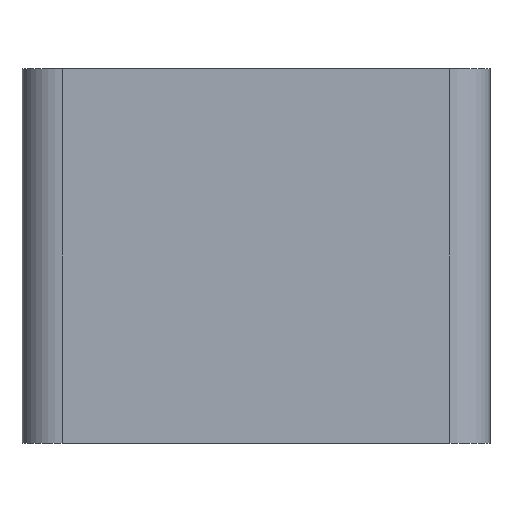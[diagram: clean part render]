
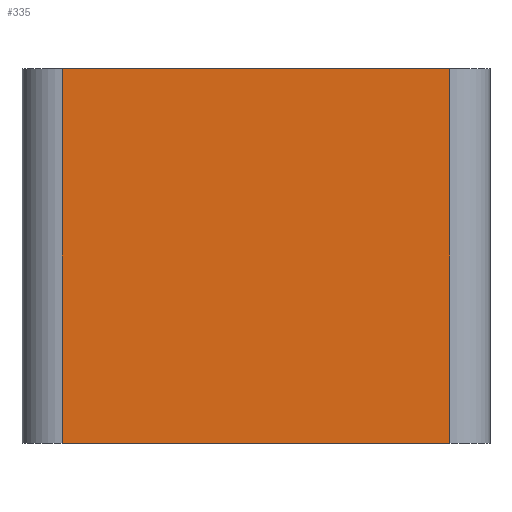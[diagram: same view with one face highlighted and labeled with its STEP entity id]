
A CAD part, front view. The second image highlights one B-rep face of the part: STEP entity #335.
In plain terms, the highlighted planar face has unit normal (0, -1, 0).
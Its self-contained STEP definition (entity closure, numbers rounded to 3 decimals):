
#188=FACE_OUTER_BOUND('',#1070,.T.);
#335=ADVANCED_FACE('',(#188),#515,.T.);
#515=PLANE('',#3290);
#628=LINE('',#4763,#780);
#632=LINE('',#4796,#784);
#633=LINE('',#4799,#785);
#634=LINE('',#4800,#786);
#780=VECTOR('',#3527,1.);
#784=VECTOR('',#3561,1.);
#785=VECTOR('',#3562,1.);
#786=VECTOR('',#3563,1.);
#1070=EDGE_LOOP('',(#1411,#1412,#1413,#1414));
#1411=ORIENTED_EDGE('',*,*,#2586,.T.);
#1412=ORIENTED_EDGE('',*,*,#2587,.T.);
#1413=ORIENTED_EDGE('',*,*,#2571,.T.);
#1414=ORIENTED_EDGE('',*,*,#2588,.T.);
#2270=VERTEX_POINT('',#4762);
#2271=VERTEX_POINT('',#4764);
#2285=VERTEX_POINT('',#4797);
#2286=VERTEX_POINT('',#4798);
#2571=EDGE_CURVE('',#2271,#2270,#628,.T.);
#2586=EDGE_CURVE('',#2285,#2286,#632,.T.);
#2587=EDGE_CURVE('',#2286,#2271,#633,.T.);
#2588=EDGE_CURVE('',#2270,#2285,#634,.T.);
#3290=AXIS2_PLACEMENT_3D('',#4801,#3564,#3565);
#3527=DIRECTION('',(-1.,0.,0.));
#3561=DIRECTION('',(1.,0.,0.));
#3562=DIRECTION('',(0.,0.,1.));
#3563=DIRECTION('',(0.,0.,-1.));
#3564=DIRECTION('',(0.,-1.,0.));
#3565=DIRECTION('',(0.,0.,-1.));
#4762=CARTESIAN_POINT('',(3.,0.,28.));
#4763=CARTESIAN_POINT('',(17.5,0.,28.));
#4764=CARTESIAN_POINT('',(32.,0.,28.));
#4796=CARTESIAN_POINT('',(17.5,0.,0.));
#4797=CARTESIAN_POINT('',(3.,0.,0.));
#4798=CARTESIAN_POINT('',(32.,0.,0.));
#4799=CARTESIAN_POINT('',(32.,0.,0.));
#4800=CARTESIAN_POINT('',(3.,0.,0.));
#4801=CARTESIAN_POINT('',(17.5,0.,0.));
